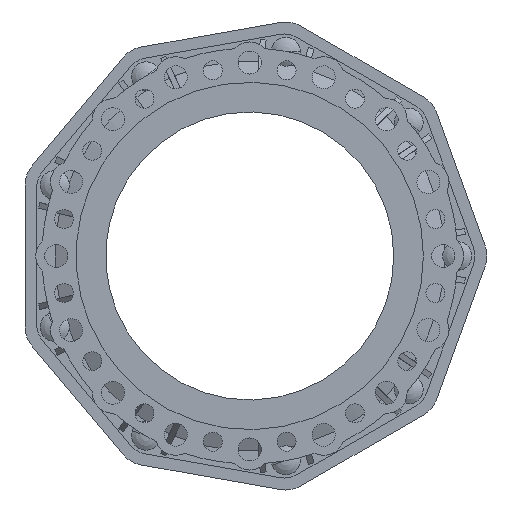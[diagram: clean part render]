
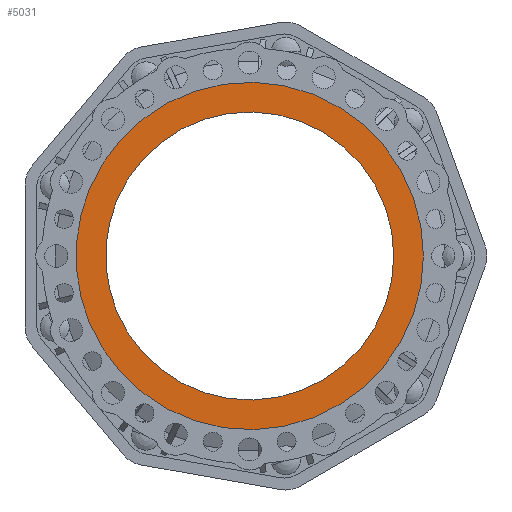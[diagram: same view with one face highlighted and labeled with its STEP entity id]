
A CAD part, front view. The second image highlights one B-rep face of the part: STEP entity #5031.
In plain terms, the highlighted planar face has unit normal (0, -1, 0).
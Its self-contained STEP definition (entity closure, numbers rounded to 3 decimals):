
#962=CARTESIAN_POINT('',(0.,-69.5,0.));
#963=DIRECTION('',(0.,1.,0.));
#964=DIRECTION('',(-0.924,0.,0.383));
#965=AXIS2_PLACEMENT_3D('',#962,#963,#964);
#967=CARTESIAN_POINT('',(0.,-69.5,0.));
#968=DIRECTION('',(0.,1.,0.));
#969=DIRECTION('',(-0.924,0.,-0.383));
#970=AXIS2_PLACEMENT_3D('',#967,#968,#969);
#972=CARTESIAN_POINT('',(0.,-69.5,0.));
#973=DIRECTION('',(0.,-1.,0.));
#974=DIRECTION('',(-0.924,0.,-0.383));
#975=AXIS2_PLACEMENT_3D('',#972,#973,#974);
#977=CARTESIAN_POINT('',(0.,-69.5,0.));
#978=DIRECTION('',(0.,-1.,0.));
#979=DIRECTION('',(-0.924,0.,0.383));
#980=AXIS2_PLACEMENT_3D('',#977,#978,#979);
#3648=CARTESIAN_POINT('',(-194.939,-69.5,80.746));
#3649=CARTESIAN_POINT('',(-194.939,-69.5,-80.746));
#3650=VERTEX_POINT('',#3648);
#3651=VERTEX_POINT('',#3649);
#3652=CARTESIAN_POINT('',(-161.679,-69.5,-66.97));
#3653=CARTESIAN_POINT('',(-161.679,-69.5,66.97));
#3654=VERTEX_POINT('',#3652);
#3655=VERTEX_POINT('',#3653);
#5016=CARTESIAN_POINT('',(0.,-69.5,0.));
#5017=DIRECTION('',(0.,-1.,0.));
#5018=DIRECTION('',(0.,0.,1.));
#5019=AXIS2_PLACEMENT_3D('',#5016,#5017,#5018);
#5020=PLANE('',#5019);
#5021=ORIENTED_EDGE('',*,*,#4996,.F.);
#5022=ORIENTED_EDGE('',*,*,#5010,.F.);
#5023=EDGE_LOOP('',(#5021,#5022));
#5024=FACE_OUTER_BOUND('',#5023,.F.);
#5026=ORIENTED_EDGE('',*,*,#5025,.F.);
#5028=ORIENTED_EDGE('',*,*,#5027,.F.);
#5029=EDGE_LOOP('',(#5026,#5028));
#5030=FACE_BOUND('',#5029,.F.);
#5031=ADVANCED_FACE('',(#5024,#5030),#5020,.T.);
#966=CIRCLE('',#965,175.);
#971=CIRCLE('',#970,175.);
#976=CIRCLE('',#975,211.);
#981=CIRCLE('',#980,211.);
#4996=EDGE_CURVE('',#3651,#3650,#976,.T.);
#5010=EDGE_CURVE('',#3650,#3651,#981,.T.);
#5025=EDGE_CURVE('',#3655,#3654,#966,.T.);
#5027=EDGE_CURVE('',#3654,#3655,#971,.T.);
